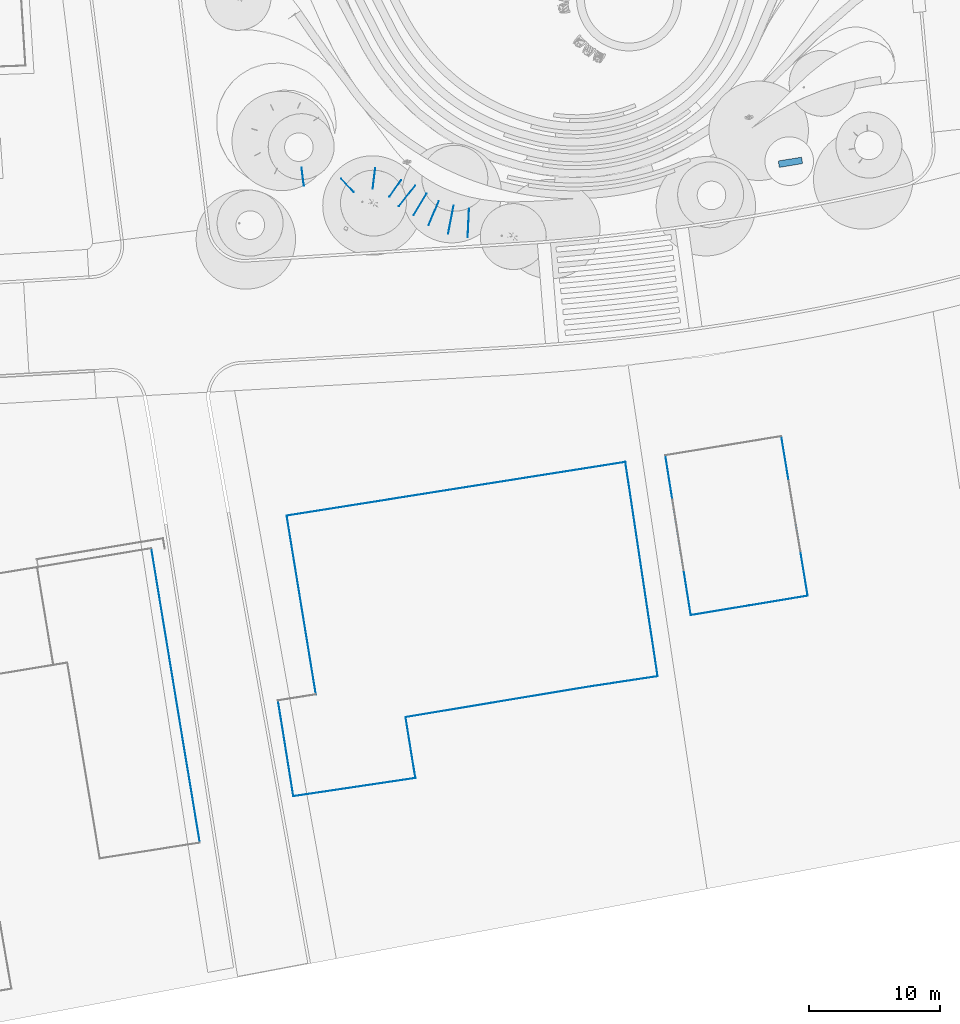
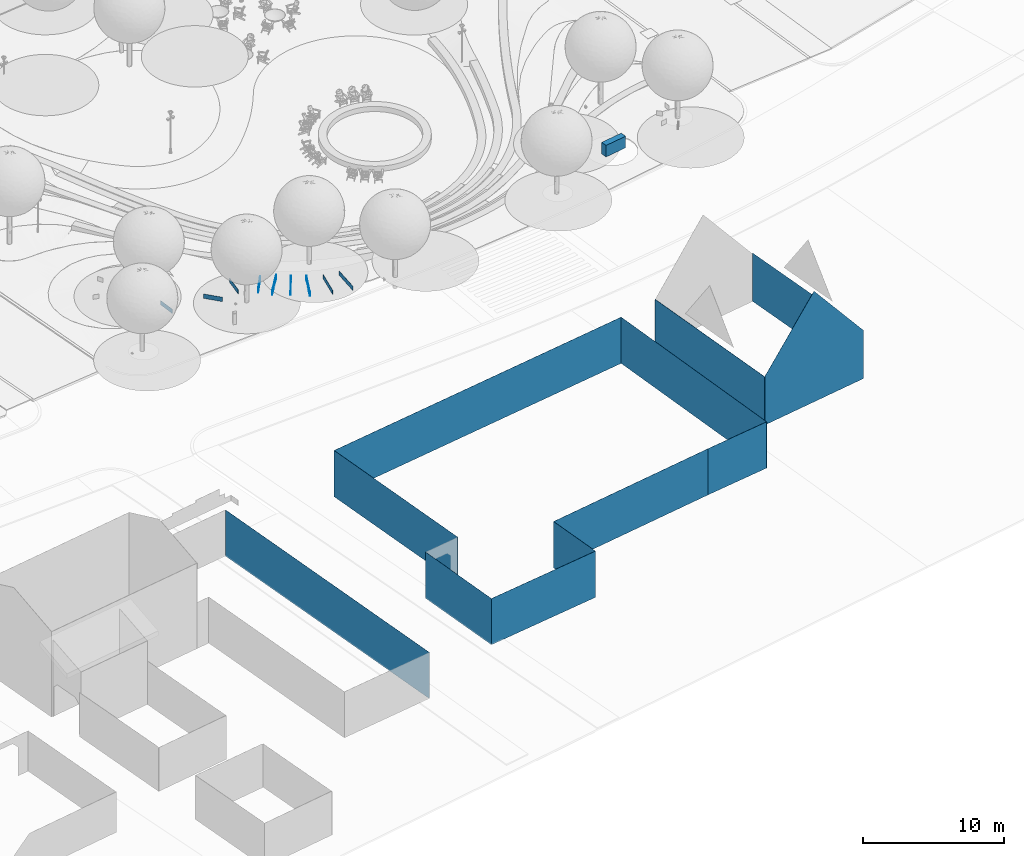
# One storey, part 23 of 75: 22 walls.
"""IFC2X3 building model written with IfcOpenShell, lengths in metres."""

from ifc_helpers import new_model, entity, si_unit, converted_unit, derived_unit, direction, frame, frame_2d, origin, place, context, subcontext, project, spatial, polyline, rectangle, outline, extrude, clip, halfspace, bounded_halfspace, material, layer, layer_set, layer_usage, type_object, element, save


model = new_model("IFC2X3")

# Units and contexts
model_context = context("Model", 3, precision=1e-05, world=origin(), true_north=direction((6.123031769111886e-17, 1.0)))
body_context = subcontext(model_context, "Body", "Model", "MODEL_VIEW")
ifc_project = project(units=[si_unit("LENGTHUNIT", "METRE"), si_unit("AREAUNIT", "SQUARE_METRE"), si_unit("VOLUMEUNIT", "CUBIC_METRE"), converted_unit("PLANEANGLEUNIT", "DEGREE", entity("IfcRatioMeasure", 0.017453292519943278), si_unit("PLANEANGLEUNIT", "RADIAN"), dimensions=[0, 0, 0, 0, 0, 0, 0]), si_unit("MASSUNIT", "GRAM", prefix="KILO"), derived_unit("MASSDENSITYUNIT", [(si_unit("MASSUNIT", "GRAM", prefix="KILO"), 1), (si_unit("LENGTHUNIT", "METRE"), -3)]), derived_unit("IONCONCENTRATIONUNIT", [(si_unit("MASSUNIT", "GRAM", prefix="KILO"), 1), (si_unit("LENGTHUNIT", "METRE"), -3)]), derived_unit("MOMENTOFINERTIAUNIT", [(si_unit("LENGTHUNIT", "METRE"), 4)]), si_unit("TIMEUNIT", "SECOND"), si_unit("FREQUENCYUNIT", "HERTZ"), si_unit("THERMODYNAMICTEMPERATUREUNIT", "DEGREE_CELSIUS"), derived_unit("THERMALTRANSMITTANCEUNIT", [(si_unit("MASSUNIT", "GRAM", prefix="KILO"), 1), (si_unit("THERMODYNAMICTEMPERATUREUNIT", "KELVIN"), -1), (si_unit("TIMEUNIT", "SECOND"), -3)]), derived_unit("THERMALCONDUCTANCEUNIT", [(si_unit("MASSUNIT", "GRAM", prefix="KILO"), 1), (si_unit("THERMODYNAMICTEMPERATUREUNIT", "KELVIN"), -1), (si_unit("TIMEUNIT", "SECOND"), -3), (si_unit("LENGTHUNIT", "METRE"), 1)]), derived_unit("VOLUMETRICFLOWRATEUNIT", [(si_unit("LENGTHUNIT", "METRE"), 3), (si_unit("TIMEUNIT", "SECOND"), -1)]), derived_unit("MASSFLOWRATEUNIT", [(si_unit("MASSUNIT", "GRAM", prefix="KILO"), 1), (si_unit("TIMEUNIT", "SECOND"), -1)]), derived_unit("ROTATIONALFREQUENCYUNIT", [(si_unit("TIMEUNIT", "SECOND"), -1)]), si_unit("ELECTRICCURRENTUNIT", "AMPERE"), si_unit("ELECTRICVOLTAGEUNIT", "VOLT"), si_unit("POWERUNIT", "WATT"), si_unit("FORCEUNIT", "NEWTON", prefix="KILO"), si_unit("ILLUMINANCEUNIT", "LUX"), si_unit("LUMINOUSFLUXUNIT", "LUMEN"), si_unit("LUMINOUSINTENSITYUNIT", "CANDELA"), derived_unit("USERDEFINED", [(si_unit("MASSUNIT", "GRAM", prefix="KILO"), -1), (si_unit("LENGTHUNIT", "METRE"), -2), (si_unit("TIMEUNIT", "SECOND"), 3), (si_unit("LUMINOUSFLUXUNIT", "LUMEN"), 1)]), derived_unit("USERDEFINED", [(si_unit("MASSUNIT", "GRAM", prefix="KILO"), 1), (si_unit("TIMEUNIT", "SECOND"), -3), (si_unit("LENGTHUNIT", "METRE"), 3), (si_unit("ELECTRICCURRENTUNIT", "AMPERE"), -2)]), derived_unit("SOUNDPOWERUNIT", [(si_unit("MASSUNIT", "GRAM", prefix="KILO"), 1), (si_unit("TIMEUNIT", "SECOND"), -3), (si_unit("LENGTHUNIT", "METRE"), 2)]), derived_unit("SOUNDPRESSUREUNIT", [(si_unit("MASSUNIT", "GRAM", prefix="KILO"), 1), (si_unit("LENGTHUNIT", "METRE"), -1), (si_unit("TIMEUNIT", "SECOND"), -2)]), derived_unit("LINEARVELOCITYUNIT", [(si_unit("LENGTHUNIT", "METRE"), 1), (si_unit("TIMEUNIT", "SECOND"), -1)]), si_unit("PRESSUREUNIT", "PASCAL"), derived_unit("USERDEFINED", [(si_unit("MASSUNIT", "GRAM", prefix="KILO"), 1), (si_unit("LENGTHUNIT", "METRE"), -2), (si_unit("TIMEUNIT", "SECOND"), -2)]), derived_unit("LINEARFORCEUNIT", [(si_unit("MASSUNIT", "GRAM", prefix="KILO"), 1), (si_unit("TIMEUNIT", "SECOND"), -2)]), derived_unit("PLANARFORCEUNIT", [(si_unit("MASSUNIT", "GRAM", prefix="KILO"), 1), (si_unit("LENGTHUNIT", "METRE"), -1), (si_unit("TIMEUNIT", "SECOND"), -2)]), derived_unit("SPECIFICHEATCAPACITYUNIT", [(si_unit("THERMODYNAMICTEMPERATUREUNIT", "KELVIN"), -1), (si_unit("LENGTHUNIT", "METRE"), 2), (si_unit("TIMEUNIT", "SECOND"), -2)]), derived_unit("HEATINGVALUEUNIT", [(si_unit("LENGTHUNIT", "METRE"), 2), (si_unit("TIMEUNIT", "SECOND"), -2)]), derived_unit("VAPORPERMEABILITYUNIT", [(si_unit("LENGTHUNIT", "METRE"), -1), (si_unit("TIMEUNIT", "SECOND"), 1)]), derived_unit("DYNAMICVISCOSITYUNIT", [(si_unit("MASSUNIT", "GRAM", prefix="KILO"), 1), (si_unit("TIMEUNIT", "SECOND"), -1), (si_unit("LENGTHUNIT", "METRE"), -1)]), derived_unit("THERMALEXPANSIONCOEFFICIENTUNIT", [(si_unit("THERMODYNAMICTEMPERATUREUNIT", "KELVIN"), -1)]), derived_unit("MODULUSOFELASTICITYUNIT", [(si_unit("MASSUNIT", "GRAM", prefix="KILO"), 1), (si_unit("LENGTHUNIT", "METRE"), -1), (si_unit("TIMEUNIT", "SECOND"), -2)]), derived_unit("ISOTHERMALMOISTURECAPACITYUNIT", [(si_unit("LENGTHUNIT", "METRE"), 3), (si_unit("MASSUNIT", "GRAM", prefix="KILO"), -1)]), derived_unit("MOISTUREDIFFUSIVITYUNIT", [(si_unit("TIMEUNIT", "SECOND"), -1), (si_unit("LENGTHUNIT", "METRE"), 2)])], contexts=[model_context])

# Site, building, storey
site_placement = place(None, origin())
site = spatial("IfcSite", under=ifc_project, at=site_placement, Name="Default", CompositionType="ELEMENT")
building_placement = place(site_placement, origin())
building = spatial("IfcBuilding", under=site, at=building_placement, Name="Projeto", CompositionType="ELEMENT")
storey_placement = place(building_placement, origin())
storey = spatial("IfcBuildingStorey", under=building, at=storey_placement, Name="Nível 1", CompositionType="ELEMENT", Elevation=0.0)

# Walls
ifc_material_1 = material(Name="Metal")
ifc_layer_1 = layer(ifc_material_1, 0.01)
ifc_layer_set_1 = layer_set([ifc_layer_1], Name="Parede básica:JA_Aluminio")
ifc_layer_usage_1 = layer_usage(ifc_layer_set_1, "AXIS2", "NEGATIVE", 0.005)
wall_type_1 = type_object("IfcWallType", Name="Parede básica:JA_Aluminio", PredefinedType="STANDARD", material=ifc_layer_set_1)
wall_1_placement = place(storey_placement, frame((11.515755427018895, -35.4093721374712, -0.1), z_axis=(0.0, 0.0, 1.0), x_axis=(0.15726055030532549, -0.9875571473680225, 0.0)))
element("IfcWallStandardCase", 1, at=wall_1_placement, inside=storey, type_object=wall_type_1, material=ifc_layer_usage_1, Name="Parede básica:JA_Aluminio", ObjectType="Parede básica:JA_Aluminio", context=body_context, shape_type="Clipping", body=[
    clip(extrude(outline(polyline([(12.35618600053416, -0.004999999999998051), (12.356121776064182, 0.0049999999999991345), (12.346121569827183, 0.004999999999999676), (0.0, 0.0049999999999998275), (4.8223233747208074e-05, -0.005000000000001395), (12.35618600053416, -0.004999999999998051)])), origin(), (0.0, 0.0, 1.0), 4.191753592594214), bounded_halfspace(frame((4.8223233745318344e-05, -0.005000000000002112, 4.1798360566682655), z_axis=(0.0, -0.7660444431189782, 0.6427876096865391), x_axis=(1.0, 0.0, 0.0)), False, frame((4.8223233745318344e-05, -0.005000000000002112, 4.1798360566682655)), polyline([(0.0, 0.0), (12.35613777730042, 0.0), (12.35607355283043, 0.010000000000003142), (12.346073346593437, 0.01000000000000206), (-4.8223233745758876e-05, 0.009999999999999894), (0.0, 0.0)]))),
])
wall_2_placement = place(storey_placement, frame((13.46300572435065, -47.606029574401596, -0.1), z_axis=(0.0, 0.0, 1.0), x_axis=(0.9865268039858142, 0.16359970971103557, 0.0)))
element("IfcWallStandardCase", 2, at=wall_2_placement, inside=storey, type_object=wall_type_1, material=ifc_layer_usage_1, Name="Parede básica:JA_Aluminio", ObjectType="Parede básica:JA_Aluminio", context=body_context, shape_type="Clipping", body=[
    clip(clip(extrude(outline(polyline([(9.047331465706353, -0.004999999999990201), (9.047331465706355, 0.005000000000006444), (9.03733146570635, 0.005000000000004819), (6.422446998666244e-05, 0.00500000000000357), (0.0, -0.004999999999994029), (9.047331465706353, -0.004999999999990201)])), origin(), (0.0, 0.0, 1.0), 9.576834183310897), bounded_halfspace(frame((0.0, -0.004999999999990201, 4.191753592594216), z_axis=(-0.7660286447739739, 0.004919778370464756, 0.6427876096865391), x_axis=(-0.006422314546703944, -0.9999793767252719, 0.0)), False, frame((0.0, -0.004999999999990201, 4.191753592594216)), polyline([(0.0, 0.0), (4.518712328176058, 0.0), (4.518744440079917, 0.009999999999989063), (6.422446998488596e-05, 0.009999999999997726), (0.0, 0.0)]))), bounded_halfspace(frame((4.5187123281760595, -0.004999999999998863, 9.576834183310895), z_axis=(0.7660444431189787, 0.0, 0.6427876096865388), x_axis=(0.0, 1.0, 0.0)), False, frame((4.5187123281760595, -0.004999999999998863, 9.576834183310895)), polyline([(0.0, 0.0), (4.528619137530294, 0.0), (4.528619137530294, 0.01000000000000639), (4.51861913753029, 0.01000000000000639), (3.2111903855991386e-05, 0.01000000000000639), (0.0, 0.0)]))),
])
wall_3_placement = place(storey_placement, frame((22.38269008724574, -46.12177413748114, -0.1), z_axis=(0.0, 0.0, 1.0), x_axis=(-0.16359970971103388, 0.9865268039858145, 0.0)))
element("IfcWallStandardCase", 3, at=wall_3_placement, inside=storey, type_object=wall_type_1, material=ifc_layer_usage_1, Name="Parede básica:JA_Aluminio", ObjectType="Parede básica:JA_Aluminio", context=body_context, shape_type="Clipping", body=[
    clip(extrude(outline(polyline([(12.33151752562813, -0.005000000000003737), (12.331533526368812, 0.004999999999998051), (0.0, 0.00500000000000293), (0.0, -0.004999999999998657), (12.33151752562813, -0.005000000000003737)])), origin(), (0.0, 0.0, 1.0), 4.191753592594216), bounded_halfspace(frame((12.331517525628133, -0.004999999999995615, 4.179836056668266), z_axis=(0.0, -0.7660444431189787, 0.6427876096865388), x_axis=(1.0, 0.0, 0.0)), False, frame((12.331517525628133, -0.004999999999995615, 4.179836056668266)), polyline([(0.0, 0.0), (1.6000740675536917e-05, 0.009999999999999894), (-12.331517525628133, 0.009999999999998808), (-12.331517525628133, 0.0), (0.0, 0.0)]))),
])
wall_4_placement = place(storey_placement, frame((8.47001559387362, -35.91354899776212, -0.1), z_axis=(0.0, 0.0, 1.0), x_axis=(-0.9876680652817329, -0.15656242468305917, 0.0)))
element("IfcWallStandardCase", 4, at=wall_4_placement, inside=storey, type_object=wall_type_1, material=ifc_layer_usage_1, Name="Parede básica:JA_Aluminio", ObjectType="Parede básica:JA_Aluminio", context=body_context, shape_type="Clipping", body=[
    clip(extrude(outline(polyline([(26.179575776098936, -0.005000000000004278), (26.179528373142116, 0.004999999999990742), (26.16952826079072, 0.004999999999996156), (0.010077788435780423, 0.004999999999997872), (7.74882190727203e-05, 0.004999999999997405), (0.0, -0.005000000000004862), (26.179575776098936, -0.005000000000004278)])), origin(), (0.0, 0.0, 1.0), 4.0), bounded_halfspace(frame((0.0, -0.004999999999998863, 4.0), z_axis=(0.0, 0.0, -1.0), x_axis=(-1.0, 0.0, 0.0)), True, frame((0.0, -0.004999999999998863, 4.0)), polyline([(0.0, 0.0), (26.17957577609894, 0.0), (26.17952837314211, 0.009999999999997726), (26.169528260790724, 0.009999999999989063), (0.010077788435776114, 0.009999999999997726), (7.748821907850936e-05, 0.009999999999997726), (0.0, 0.0)]))),
])
wall_5_placement = place(storey_placement, frame((10.9287598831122, -52.27550404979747, -0.1), z_axis=(0.0, 0.0, 1.0), x_axis=(-0.14890469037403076, 0.9888515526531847, 0.0)))
element("IfcWallStandardCase", 5, at=wall_5_placement, inside=storey, type_object=wall_type_1, material=ifc_layer_usage_1, Name="Parede básica:JA_Aluminio", ObjectType="Parede básica:JA_Aluminio", context=body_context, shape_type="Clipping", body=[
    clip(extrude(outline(polyline([(16.540662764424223, -0.004999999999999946), (16.540585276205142, 0.005000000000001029), (0.010000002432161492, 0.005000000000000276), (0.0, 0.00499999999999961), (6.974471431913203e-06, -0.004999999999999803), (16.540662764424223, -0.004999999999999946)])), origin(), (0.0, 0.0, 1.0), 4.0), bounded_halfspace(frame((6.974471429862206e-06, -0.004999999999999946, 4.0), z_axis=(0.0, 0.0, -1.0), x_axis=(0.0077485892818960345, -0.999969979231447, 0.0)), True, frame((6.974471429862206e-06, -0.004999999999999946, 4.0)), polyline([(0.0, 0.0), (16.540655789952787, 0.0), (16.540578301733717, 0.00999999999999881), (0.009993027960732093, 0.009999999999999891), (-6.97447143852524e-06, 0.009999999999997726), (0.0, 0.0)]))),
])
wall_6_placement = place(storey_placement, frame((5.661233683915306, -53.06740347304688, -0.1), z_axis=(0.0, 0.0, 1.0), x_axis=(0.9887474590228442, 0.14959432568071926, 0.0)))
element("IfcWallStandardCase", 6, at=wall_6_placement, inside=storey, type_object=wall_type_1, material=ifc_layer_usage_1, Name="Parede básica:JA_Aluminio", ObjectType="Parede básica:JA_Aluminio", context=body_context, shape_type="Clipping", body=[
    clip(extrude(outline(polyline([(5.321716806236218, -0.00500000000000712), (5.321723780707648, 0.00499999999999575), (0.0, 0.004999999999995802), (7.276563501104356e-05, -0.005000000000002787), (5.321716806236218, -0.00500000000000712)])), origin(), (0.0, 0.0, 1.0), 4.0), bounded_halfspace(frame((7.276563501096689e-05, -0.004999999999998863, 4.0), z_axis=(0.0, 0.0, -1.0), x_axis=(0.9999751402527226, 0.007051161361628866, 0.0)), True, frame((7.276563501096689e-05, -0.004999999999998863, 4.0)), polyline([(0.0, 0.0), (5.321644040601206, 0.0), (5.3216510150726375, 0.009999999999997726), (-7.276563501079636e-05, 0.009999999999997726), (0.0, 0.0)]))),
])
wall_7_placement = place(storey_placement, frame((-17.38095115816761, -40.016411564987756, -0.1), z_axis=(0.0, 0.0, 1.0), x_axis=(0.1612424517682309, -0.9869148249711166, 0.0)))
element("IfcWallStandardCase", 7, at=wall_7_placement, inside=storey, type_object=wall_type_1, material=ifc_layer_usage_1, Name="Parede básica:JA_Aluminio", ObjectType="Parede básica:JA_Aluminio", context=body_context, shape_type="Clipping", body=[
    clip(extrude(outline(polyline([(13.825016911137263, -0.004999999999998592), (13.825064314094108, 0.004999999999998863), (4.74029568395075e-05, 0.004999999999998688), (0.0, -0.005000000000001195), (13.81501679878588, -0.0050000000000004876), (13.825016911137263, -0.004999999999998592)])), origin(), (0.0, 0.0, 1.0), 4.0), bounded_halfspace(frame((0.0, -0.004999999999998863, 4.0), z_axis=(0.0, 0.0, -1.0), x_axis=(0.004740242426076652, 0.9999887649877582, 0.0)), True, frame((0.0, -0.004999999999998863, 4.0)), polyline([(0.0, 0.0), (12.825005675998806, 0.0), (13.815016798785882, 0.0), (13.82501691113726, 0.0), (13.8250643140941, 0.009999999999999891), (12.825053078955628, 0.009999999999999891), (4.740295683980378e-05, 0.009999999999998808), (0.0, 0.0)]))),
])
wall_8_placement = place(storey_placement, frame((-18.04714070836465, -54.119507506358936, -0.1), z_axis=(0.0, 0.0, 1.0), x_axis=(0.15815365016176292, -0.9874145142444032, 0.0)))
element("IfcWallStandardCase", 8, at=wall_8_placement, inside=storey, type_object=wall_type_1, material=ifc_layer_usage_1, Name="Parede básica:JA_Aluminio", ObjectType="Parede básica:JA_Aluminio", context=body_context, shape_type="Clipping", body=[
    clip(extrude(outline(polyline([(7.406831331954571, -0.004999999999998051), (7.406936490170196, 0.004999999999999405), (7.396935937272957, 0.004999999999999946), (1.6113012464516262e-05, 0.004999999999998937), (0.0, -0.004999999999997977), (7.406831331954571, -0.004999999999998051)])), origin(), (0.0, 0.0, 1.0), 4.0), bounded_halfspace(frame((0.0, -0.005000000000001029, 4.0), z_axis=(0.0, 0.0, -1.0), x_axis=(0.0016112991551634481, 0.9999987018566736, 0.0)), True, frame((0.0, -0.005000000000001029, 4.0)), polyline([(0.0, 0.0), (7.406831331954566, 0.0), (7.406936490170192, 0.010000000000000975), (7.396935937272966, 0.009999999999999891), (1.611301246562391e-05, 0.010000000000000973), (0.0, 0.0)]))),
])
wall_9_placement = place(storey_placement, frame((-16.871612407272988, -61.4275037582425, -0.1), z_axis=(0.0, 0.0, 1.0), x_axis=(0.9890229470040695, 0.14776200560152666, 0.0)))
element("IfcWallStandardCase", 9, at=wall_9_placement, inside=storey, type_object=wall_type_1, material=ifc_layer_usage_1, Name="Parede básica:JA_Aluminio", ObjectType="Parede básica:JA_Aluminio", context=body_context, shape_type="Clipping", body=[
    clip(extrude(outline(polyline([(9.421330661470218, -0.004999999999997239), (9.421218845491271, 0.004999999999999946), (9.411218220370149, 0.004999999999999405), (0.0, 0.00499999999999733), (0.00010515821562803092, -0.005000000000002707), (9.421330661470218, -0.004999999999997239)])), origin(), (0.0, 0.0, 1.0), 4.0), bounded_halfspace(frame((0.00010515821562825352, -0.004999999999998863, 4.0), z_axis=(0.0, 0.0, -1.0), x_axis=(0.9999603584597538, 0.008904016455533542, 0.0)), True, frame((0.00010515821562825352, -0.004999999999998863, 4.0)), polyline([(0.0, 0.0), (9.42122550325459, 0.0), (9.421113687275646, 0.01000000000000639), (9.411113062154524, 0.01000000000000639), (-0.00010515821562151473, 0.009999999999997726), (0.0, 0.0)]))),
])
wall_10_placement = place(storey_placement, frame((-7.55948613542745, -60.03125450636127, -0.1), z_axis=(0.0, 0.0, 1.0), x_axis=(-0.15881093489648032, 0.9873090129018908, 0.0)))
element("IfcWallStandardCase", 10, at=wall_10_placement, inside=storey, type_object=wall_type_1, material=ifc_layer_usage_1, Name="Parede básica:JA_Aluminio", ObjectType="Parede básica:JA_Aluminio", context=body_context, shape_type="Clipping", body=[
    clip(extrude(outline(polyline([(4.706927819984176, -0.005000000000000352), (4.7068755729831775, 0.005000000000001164), (0.00011181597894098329, 0.005000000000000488), (0.0, -0.004999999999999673), (4.696927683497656, -0.005000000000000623), (4.706927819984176, -0.005000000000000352)])), origin(), (0.0, 0.0, 1.0), 4.0), bounded_halfspace(frame((0.0, -0.004999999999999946, 4.0), z_axis=(0.0, 0.0, -1.0), x_axis=(-0.002276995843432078, -0.9999974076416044, 0.0)), True, frame((0.0, -0.004999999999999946, 4.0)), polyline([(0.0, 0.0), (4.696927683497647, 0.0), (4.706927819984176, 0.0), (4.7068755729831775, 0.010000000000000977), (0.0001118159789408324, 0.01000000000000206), (0.0, 0.0)]))),
])
wall_11_placement = place(storey_placement, frame((-8.301292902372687, -55.38820908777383, -0.1), z_axis=(0.0, 0.0, 1.0), x_axis=(0.9864658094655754, 0.16396709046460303, 0.0)))
element("IfcWallStandardCase", 11, at=wall_11_placement, inside=storey, type_object=wall_type_1, material=ifc_layer_usage_1, Name="Parede básica:JA_Aluminio", ObjectType="Parede básica:JA_Aluminio", context=body_context, shape_type="Clipping", body=[
    clip(extrude(outline(polyline([(14.154090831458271, -0.005000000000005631), (14.154163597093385, 0.004999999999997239), (5.224700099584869e-05, 0.004999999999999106), (0.0, -0.004999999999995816), (14.154090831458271, -0.005000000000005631)])), origin(), (0.0, 0.0, 1.0), 4.0), bounded_halfspace(frame((0.0, -0.005000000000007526, 4.0), z_axis=(0.0, 0.0, -1.0), x_axis=(0.9999718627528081, -0.007501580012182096, 0.0)), True, frame((0.0, -0.005000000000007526, 4.0)), polyline([(0.0, 0.0), (14.154090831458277, 0.0), (14.154163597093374, 0.010000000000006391), (5.224700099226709e-05, 0.01000000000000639), (0.0, 0.0)]))),
])
wall_12_placement = place(storey_placement, frame((-27.71618250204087, -42.511894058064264, -0.1), z_axis=(0.0, 0.0, 1.0), x_axis=(0.16269643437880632, -0.9866761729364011, 0.0)))
element("IfcWallStandardCase", 12, at=wall_12_placement, inside=storey, type_object=wall_type_1, material=ifc_layer_usage_1, Name="Parede básica:JA_Aluminio", ObjectType="Parede básica:JA_Aluminio", context=body_context, shape_type="Clipping", body=[
    clip(extrude(outline(polyline([(22.773303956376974, -0.005000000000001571), (22.773382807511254, 0.0049999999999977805), (0.0, 0.005000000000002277), (5.425269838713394e-06, -0.005000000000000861), (22.763303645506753, -0.0050000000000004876), (22.773303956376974, -0.005000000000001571)])), origin(), (0.0, 0.0, 1.0), 4.0), bounded_halfspace(frame((5.425269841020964e-06, -0.004999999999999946, 4.0), z_axis=(0.0, 0.0, -1.0), x_axis=(-0.0005425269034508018, 0.9999998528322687, 0.0)), True, frame((5.425269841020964e-06, -0.004999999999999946, 4.0)), polyline([(0.0, 0.0), (22.763298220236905, 0.0), (22.77329853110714, 0.0), (22.773377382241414, 0.010000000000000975), (-5.425269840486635e-06, 0.009999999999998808), (0.0, 0.0)]))),
])
ifc_material_2 = material(Name=".ARQ.PIS - CONTRAPISO.ARMADO")
ifc_layer_2 = layer(ifc_material_2, 0.01)
ifc_layer_set_2 = layer_set([ifc_layer_2], Name="Parede básica:15cm 2")
ifc_layer_usage_2 = layer_usage(ifc_layer_set_2, "AXIS2", "NEGATIVE", 0.005000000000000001)
wall_type_2 = type_object("IfcWallType", Name="Parede básica:15cm 2", PredefinedType="STANDARD", material=ifc_layer_set_2)
wall_13_placement = place(storey_placement, frame((-12.577992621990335, -14.972802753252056, 0.0), z_axis=(0.0, 0.0, 1.0), x_axis=(-0.6788906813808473, 0.7342393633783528, 0.0)))
element("IfcWallStandardCase", 13, at=wall_13_placement, inside=storey, type_object=wall_type_2, material=ifc_layer_usage_2, Name="Parede básica:15cm 2", ObjectType="Parede básica:15cm 2", context=body_context, shape_type="Clipping", body=[
    clip(extrude(rectangle(XDim=0.009999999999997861, YDim=1.4, at=frame_2d((0.2400000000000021, 1.049074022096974e-15), x_axis=(0.0, -1.0))), origin(), (0.0, 0.0, 1.0), 0.3799999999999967), halfspace(frame((0.0, -0.005000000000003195, 0.3799999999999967), z_axis=(0.0, 0.0, 1.0), x_axis=(0.0, 1.0, 0.0)), False)),
])
wall_14_placement = place(storey_placement, frame((-10.698542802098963, -14.064804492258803, 0.0), z_axis=(0.0, 0.0, 1.0), x_axis=(-0.12186934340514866, -0.9925461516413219, 0.0)))
element("IfcWallStandardCase", 14, at=wall_14_placement, inside=storey, type_object=wall_type_2, material=ifc_layer_usage_2, Name="Parede básica:15cm 2", ObjectType="Parede básica:15cm 2", context=body_context, shape_type="Clipping", body=[
    clip(extrude(rectangle(XDim=0.009999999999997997, YDim=1.559999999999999, at=frame_2d((0.21223640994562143, 1.6748755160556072e-15), x_axis=(0.0, -1.0))), origin(), (0.0, 0.0, 1.0), 0.3799999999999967), halfspace(frame((0.0, -0.004999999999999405, 0.3799999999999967), z_axis=(0.0, 0.0, 1.0), x_axis=(0.0, 1.0, 0.0)), False)),
])
wall_15_placement = place(storey_placement, frame((-8.102358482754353, -15.48177647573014, 0.0), z_axis=(0.0, 0.0, 1.0), x_axis=(-0.6156614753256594, -0.7880107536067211, 0.0)))
element("IfcWallStandardCase", 15, at=wall_15_placement, inside=storey, type_object=wall_type_2, material=ifc_layer_usage_2, Name="Parede básica:15cm 2", ObjectType="Parede básica:15cm 2", context=body_context, shape_type="Clipping", body=[
    clip(extrude(rectangle(XDim=0.009999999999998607, YDim=2.0, at=frame_2d((0.1599999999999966, -6.76975836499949e-16), x_axis=(0.0, -1.0))), origin(), (0.0, 0.0, 1.0), 0.3799999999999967), halfspace(frame((0.0, -0.005000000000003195, 0.3799999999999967), z_axis=(0.0, 0.0, 1.0), x_axis=(0.0, 1.0, 0.0)), False)),
])
wall_16_placement = place(storey_placement, frame((-7.153742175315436, -16.15930652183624, 0.0), z_axis=(0.0, 0.0, 1.0), x_axis=(-0.5150380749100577, -0.8571673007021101, 0.0)))
element("IfcWallStandardCase", 16, at=wall_16_placement, inside=storey, type_object=wall_type_2, material=ifc_layer_usage_2, Name="Parede básica:15cm 2", ObjectType="Parede básica:15cm 2", context=body_context, shape_type="Clipping", body=[
    clip(extrude(rectangle(XDim=0.010000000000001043, YDim=1.899999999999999, at=frame_2d((0.10999999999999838, -1.0148132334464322e-16), x_axis=(0.0, -1.0))), origin(), (0.0, 0.0, 1.0), 0.3799999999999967), halfspace(frame((0.0, -0.004999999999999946, 0.3799999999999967), z_axis=(0.0, 0.0, 1.0), x_axis=(0.0, 1.0, 0.0)), False)),
])
wall_17_placement = place(storey_placement, frame((-6.09894237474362, -16.761263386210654, 0.0), z_axis=(0.0, 0.0, 1.0), x_axis=(-0.3907311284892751, -0.9205048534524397, 0.0)))
element("IfcWallStandardCase", 17, at=wall_17_placement, inside=storey, type_object=wall_type_2, material=ifc_layer_usage_2, Name="Parede básica:15cm 2", ObjectType="Parede básica:15cm 2", context=body_context, shape_type="Clipping", body=[
    clip(extrude(rectangle(XDim=0.009999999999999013, YDim=2.0, at=frame_2d((0.17999999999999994, -3.5518463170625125e-16), x_axis=(0.0, -1.0))), origin(), (0.0, 0.0, 1.0), 0.3799999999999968), halfspace(frame((0.0, -0.004999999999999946, 0.3799999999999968), z_axis=(0.0, 0.0, 1.0), x_axis=(0.0, 1.0, 0.0)), False)),
])
wall_18_placement = place(storey_placement, frame((-4.809718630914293, -17.180373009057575, 0.0), z_axis=(0.0, 0.0, 1.0), x_axis=(-0.19080899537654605, -0.9816271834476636, 0.0)))
element("IfcWallStandardCase", 18, at=wall_18_placement, inside=storey, type_object=wall_type_2, material=ifc_layer_usage_2, Name="Parede básica:15cm 2", ObjectType="Parede básica:15cm 2", context=body_context, shape_type="Clipping", body=[
    clip(extrude(rectangle(XDim=0.010000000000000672, YDim=2.16800710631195, at=frame_2d((0.24400355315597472, 1.0148132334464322e-16), x_axis=(0.0, -1.0))), origin(), (0.0, 0.0, 1.0), 0.3799999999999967), halfspace(frame((0.0, -0.005000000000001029, 0.3799999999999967), z_axis=(0.0, 0.0, 1.0), x_axis=(0.0, 1.0, 0.0)), False)),
])
wall_19_placement = place(storey_placement, frame((-8.97426832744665, -14.860344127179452, 0.0), z_axis=(0.0, 0.0, 1.0), x_axis=(-0.573576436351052, -0.8191520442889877, 0.0)))
element("IfcWallStandardCase", 19, at=wall_19_placement, inside=storey, type_object=wall_type_2, material=ifc_layer_usage_2, Name="Parede básica:15cm 2", ObjectType="Parede básica:15cm 2", context=body_context, shape_type="Clipping", body=[
    clip(extrude(rectangle(XDim=0.009999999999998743, YDim=1.5600000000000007, at=frame_2d((0.21223640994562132, -5.078402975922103e-16), x_axis=(0.0, -1.0))), origin(), (0.0, 0.0, 1.0), 0.3799999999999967), halfspace(frame((0.0, -0.004999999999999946, 0.3799999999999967), z_axis=(0.0, 0.0, 1.0), x_axis=(0.0, 1.0, 0.0)), False)),
])
wall_20_placement = place(storey_placement, frame((-3.507306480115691, -17.41627064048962, 0.0), z_axis=(0.0, 0.0, 1.0), x_axis=(-0.04777276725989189, -0.998858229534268, 0.0)))
element("IfcWallStandardCase", 20, at=wall_20_placement, inside=storey, type_object=wall_type_2, material=ifc_layer_usage_2, Name="Parede básica:15cm 2", ObjectType="Parede básica:15cm 2", context=body_context, shape_type="Clipping", body=[
    clip(extrude(rectangle(XDim=0.01000000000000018, YDim=2.16800710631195, at=frame_2d((0.24400355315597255, -3.3610267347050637e-16), x_axis=(0.0, -1.0))), origin(), (0.0, 0.0, 1.0), 0.3799999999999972), halfspace(frame((0.0, -0.005000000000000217, 0.3799999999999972), z_axis=(0.0, 0.0, 1.0), x_axis=(0.0, 1.0, 0.0)), False)),
])
wall_21_placement = place(storey_placement, frame((-16.12917208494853, -14.393027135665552, 0.0), z_axis=(0.0, 0.0, 1.0), x_axis=(-0.12600865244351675, 0.9920291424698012, 0.0)))
element("IfcWallStandardCase", 21, at=wall_21_placement, inside=storey, type_object=wall_type_2, material=ifc_layer_usage_2, Name="Parede básica:15cm 2", ObjectType="Parede básica:15cm 2", context=body_context, shape_type="Clipping", body=[
    clip(extrude(rectangle(XDim=0.010000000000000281, YDim=1.400000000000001, at=frame_2d((0.24000000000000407, -8.756016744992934e-16), x_axis=(0.0, -1.0))), origin(), (0.0, 0.0, 1.0), 0.3799999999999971), halfspace(frame((0.0, -0.005000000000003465, 0.3799999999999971), z_axis=(0.0, 0.0, 1.0), x_axis=(0.0, 1.0, 0.0)), False)),
])
ifc_material_3 = material(Name="3D Tubo Equip. 05")
ifc_layer_3 = layer(ifc_material_3, 0.49999999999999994)
ifc_layer_set_3 = layer_set([ifc_layer_3], Name="Parede básica:15cm 3")
ifc_layer_usage_3 = layer_usage(ifc_layer_set_3, "AXIS2", "NEGATIVE", 0.24999999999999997)
wall_type_3 = type_object("IfcWallType", Name="Parede básica:15cm 3", PredefinedType="STANDARD", material=ifc_layer_set_3)
wall_22_placement = place(storey_placement, frame((20.699005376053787, -13.099198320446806, 0.0), z_axis=(0.0, 0.0, 1.0), x_axis=(0.9867873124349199, 0.1620209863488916, 0.0)))
element("IfcWallStandardCase", 22, at=wall_22_placement, inside=storey, type_object=wall_type_3, material=ifc_layer_usage_3, Name="Parede básica:15cm 3", ObjectType="Parede básica:15cm 3", context=body_context, shape_type="Clipping", body=[
    clip(extrude(rectangle(XDim=0.4999999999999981, YDim=1.800000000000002, at=frame_2d((0.36449028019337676, 1.249000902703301e-16), x_axis=(0.0, -1.0))), origin(), (0.0, 0.0, 1.0), 0.9999999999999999), halfspace(frame((0.0, -0.25000000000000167, 1.0), z_axis=(0.0, 0.0, 1.0), x_axis=(0.0, 1.0, 0.0)), False)),
])

save(model, "model.ifc")
